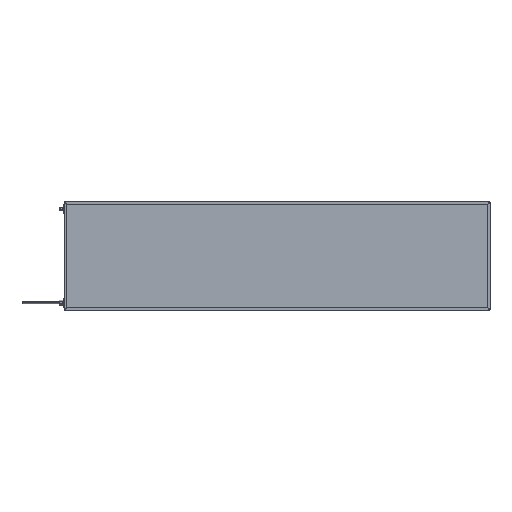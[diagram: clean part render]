
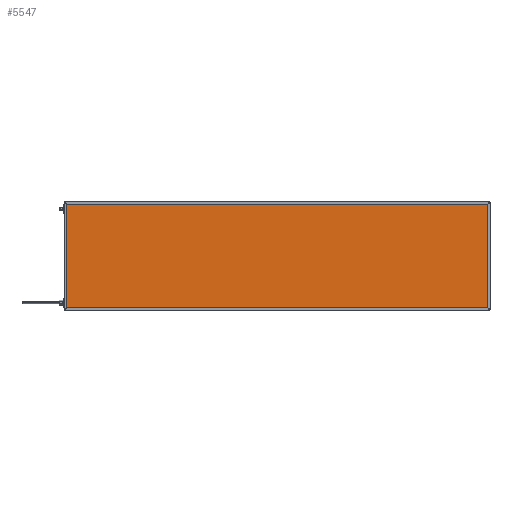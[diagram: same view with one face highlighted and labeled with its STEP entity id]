
A CAD part, top view. The second image highlights one B-rep face of the part: STEP entity #5547.
In plain terms, the highlighted planar face has unit normal (0, 0, 1).
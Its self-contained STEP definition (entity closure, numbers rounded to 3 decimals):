
#54 = PLANE ( 'NONE',  #4645 ) ;
#109 = LINE ( 'NONE', #8675, #13079 ) ;
#633 = EDGE_CURVE ( 'NONE', #12402, #13621, #11855, .T. ) ;
#1091 = ORIENTED_EDGE ( 'NONE', *, *, #633, .T. ) ;
#1415 = DIRECTION ( 'NONE',  ( 0., 0., -1. ) ) ;
#1669 = EDGE_CURVE ( 'NONE', #5481, #12402, #16003, .T. ) ;
#2980 = EDGE_CURVE ( 'NONE', #13621, #9119, #109, .T. ) ;
#3352 = ORIENTED_EDGE ( 'NONE', *, *, #14937, .T. ) ;
#3370 = CARTESIAN_POINT ( 'NONE',  ( 0., 4., 41.85 ) ) ;
#3972 = DIRECTION ( 'NONE',  ( -1., 0., 0. ) ) ;
#4516 = CARTESIAN_POINT ( 'NONE',  ( 1596., 396., 41.85 ) ) ;
#4645 = AXIS2_PLACEMENT_3D ( 'NONE', #12640, #1415, #3972 ) ;
#5481 = VERTEX_POINT ( 'NONE', #10836 ) ;
#5547 = ADVANCED_FACE ( 'NONE', ( #12370 ), #54, .F. ) ;
#5784 = VECTOR ( 'NONE', #15738, 1000. ) ;
#5833 = EDGE_LOOP ( 'NONE', ( #9317, #3352, #13859, #1091 ) ) ;
#6212 = DIRECTION ( 'NONE',  ( 1., 0., 0. ) ) ;
#6705 = DIRECTION ( 'NONE',  ( -1., 0., 0. ) ) ;
#7800 = CARTESIAN_POINT ( 'NONE',  ( 4., 0., 41.85 ) ) ;
#8359 = VECTOR ( 'NONE', #6212, 1000. ) ;
#8484 = CARTESIAN_POINT ( 'NONE',  ( 1596., 4., 41.85 ) ) ;
#8675 = CARTESIAN_POINT ( 'NONE',  ( 1596., 0., 41.85 ) ) ;
#9119 = VERTEX_POINT ( 'NONE', #4516 ) ;
#9317 = ORIENTED_EDGE ( 'NONE', *, *, #2980, .T. ) ;
#10836 = CARTESIAN_POINT ( 'NONE',  ( 4., 396., 41.85 ) ) ;
#10978 = CARTESIAN_POINT ( 'NONE',  ( 0., 396., 41.85 ) ) ;
#11855 = LINE ( 'NONE', #3370, #8359 ) ;
#12370 = FACE_OUTER_BOUND ( 'NONE', #5833, .T. ) ;
#12402 = VERTEX_POINT ( 'NONE', #14689 ) ;
#12640 = CARTESIAN_POINT ( 'NONE',  ( 0., 0., 41.85 ) ) ;
#13079 = VECTOR ( 'NONE', #16705, 1000. ) ;
#13621 = VERTEX_POINT ( 'NONE', #8484 ) ;
#13859 = ORIENTED_EDGE ( 'NONE', *, *, #1669, .T. ) ;
#14689 = CARTESIAN_POINT ( 'NONE',  ( 4., 4., 41.85 ) ) ;
#14937 = EDGE_CURVE ( 'NONE', #9119, #5481, #17558, .T. ) ;
#15738 = DIRECTION ( 'NONE',  ( 0., -1., 0. ) ) ;
#16003 = LINE ( 'NONE', #7800, #5784 ) ;
#16705 = DIRECTION ( 'NONE',  ( 0., 1., 0. ) ) ;
#17159 = VECTOR ( 'NONE', #6705, 1000. ) ;
#17558 = LINE ( 'NONE', #10978, #17159 ) ;
